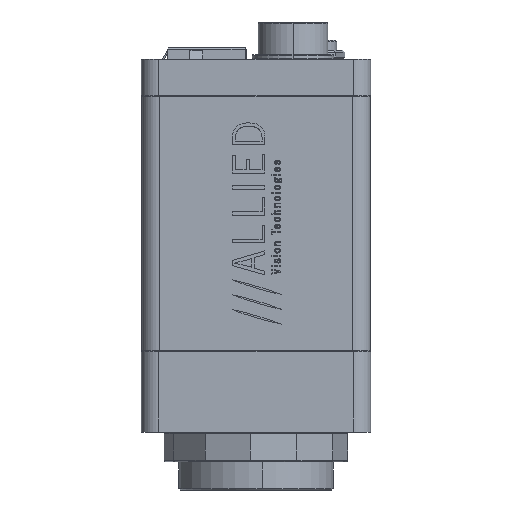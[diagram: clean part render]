
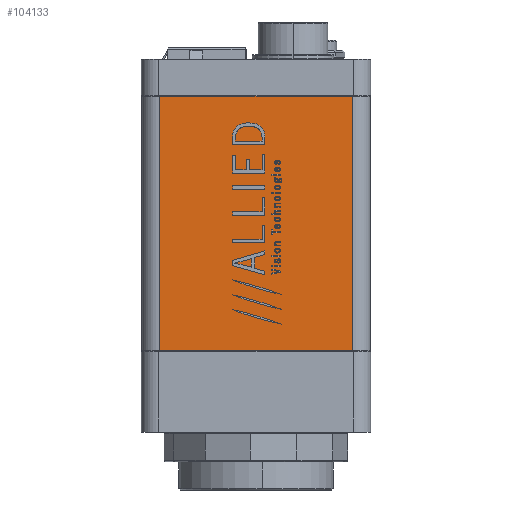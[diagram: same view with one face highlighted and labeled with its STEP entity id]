
A CAD part, left-side view. The second image highlights one B-rep face of the part: STEP entity #104133.
In plain terms, the highlighted planar face has unit normal (-1, 0, 0).
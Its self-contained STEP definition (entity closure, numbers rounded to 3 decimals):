
#4989 = CARTESIAN_POINT ( 'NONE',  ( -25.714, -16.558, 0. ) ) ;
#6174 = DIRECTION ( 'NONE',  ( 0., 1., 0. ) ) ;
#19115 = LINE ( 'NONE', #167245, #98644 ) ;
#36508 = LINE ( 'NONE', #4989, #115635 ) ;
#40205 = EDGE_CURVE ( 'NONE', #130222, #42850, #36508, .T. ) ;
#42850 = VERTEX_POINT ( 'NONE', #68450 ) ;
#43286 = CARTESIAN_POINT ( 'NONE',  ( -25.714, -16.558, 108.336 ) ) ;
#44706 = ORIENTED_EDGE ( 'NONE', *, *, #40205, .F. ) ;
#60486 = ORIENTED_EDGE ( 'NONE', *, *, #125456, .F. ) ;
#68450 = CARTESIAN_POINT ( 'NONE',  ( -25.714, 16.558, 0. ) ) ;
#76623 = VECTOR ( 'NONE', #198549, 1000. ) ;
#82053 = ORIENTED_EDGE ( 'NONE', *, *, #139638, .F. ) ;
#91435 = DIRECTION ( 'NONE',  ( 0., -1., 0. ) ) ;
#92356 = CARTESIAN_POINT ( 'NONE',  ( -25.714, -16.558, 43.65 ) ) ;
#97577 = DIRECTION ( 'NONE',  ( 0., 0., 1. ) ) ;
#97785 = DIRECTION ( 'NONE',  ( -1., 0., 0. ) ) ;
#97814 = CARTESIAN_POINT ( 'NONE',  ( -25.714, 16.558, 108.336 ) ) ;
#98644 = VECTOR ( 'NONE', #182661, 1000. ) ;
#99708 = PLANE ( 'NONE',  #194392 ) ;
#104133 = ADVANCED_FACE ( 'NONE', ( #136684 ), #99708, .T. ) ;
#115635 = VECTOR ( 'NONE', #6174, 1000. ) ;
#118298 = LINE ( 'NONE', #43286, #76623 ) ;
#125456 = EDGE_CURVE ( 'NONE', #179140, #177411, #183033, .T. ) ;
#130222 = VERTEX_POINT ( 'NONE', #180266 ) ;
#134359 = EDGE_LOOP ( 'NONE', ( #82053, #44706, #137380, #60486 ) ) ;
#136684 = FACE_OUTER_BOUND ( 'NONE', #134359, .T. ) ;
#137380 = ORIENTED_EDGE ( 'NONE', *, *, #198870, .T. ) ;
#139638 = EDGE_CURVE ( 'NONE', #42850, #179140, #19115, .T. ) ;
#149230 = CARTESIAN_POINT ( 'NONE',  ( -25.714, 16.558, 43.65 ) ) ;
#167245 = CARTESIAN_POINT ( 'NONE',  ( -25.714, 16.558, 108.336 ) ) ;
#168673 = CARTESIAN_POINT ( 'NONE',  ( -25.714, 16.558, 43.65 ) ) ;
#177411 = VERTEX_POINT ( 'NONE', #92356 ) ;
#179140 = VERTEX_POINT ( 'NONE', #149230 ) ;
#180266 = CARTESIAN_POINT ( 'NONE',  ( -25.714, -16.558, 0. ) ) ;
#182661 = DIRECTION ( 'NONE',  ( 0., 0., 1. ) ) ;
#183033 = LINE ( 'NONE', #168673, #187694 ) ;
#187694 = VECTOR ( 'NONE', #91435, 1000. ) ;
#194392 = AXIS2_PLACEMENT_3D ( 'NONE', #97814, #97785, #97577 ) ;
#198549 = DIRECTION ( 'NONE',  ( 0., 0., 1. ) ) ;
#198870 = EDGE_CURVE ( 'NONE', #130222, #177411, #118298, .T. ) ;
